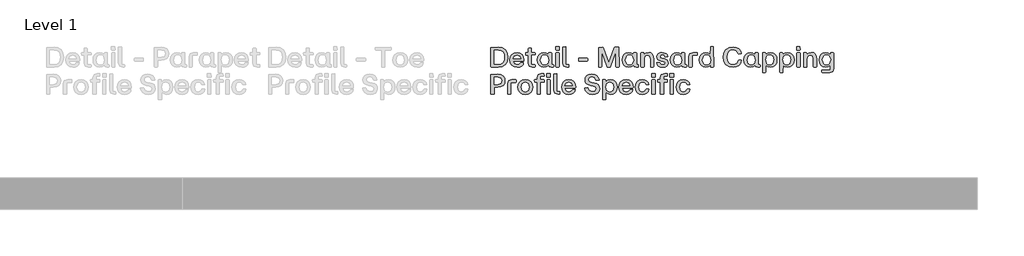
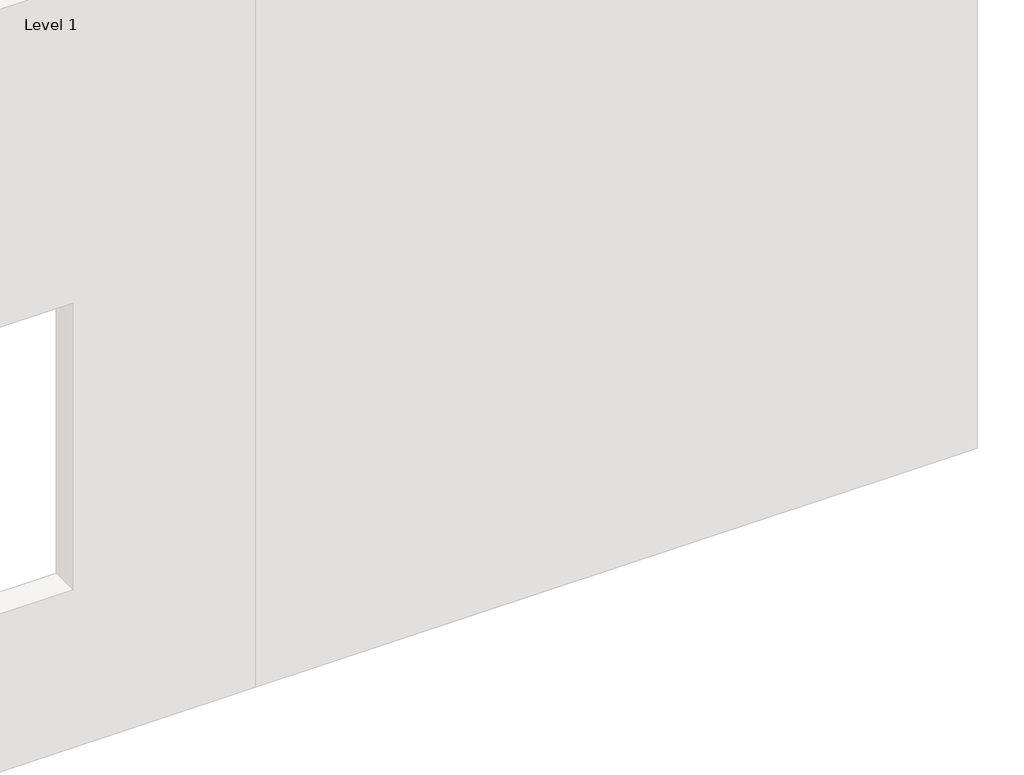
# One storey, part 50 of 64: 1 proxy.
"""IFC4 building model written with IfcOpenShell, lengths in millimetres."""

from ifc_helpers import new_model, si_unit, origin, origin_with_axes, place, context, project, spatial, polyline, outline, extrude, element, save

model = new_model("IFC4")

# Units and contexts
model_context = context("Model", 3, world=origin())
ifc_project = project(units=[si_unit("LENGTHUNIT", "METRE", prefix="MILLI")], contexts=[model_context])

# Site, building, storey
site = spatial("IfcSite", under=ifc_project)
building = spatial("IfcBuilding", under=site)
storey = spatial("IfcBuildingStorey", under=building, Name="Level 1", Elevation=0.0)

# Proxy
placement = place(None, origin())
element("IfcBuildingElementProxy", 1, Name="90mm", ObjectType="90mm", at=placement, inside=storey, context=model_context, shape_type="SweptSolid", body=[
    extrude(outline(polyline([(18110.2926176, -1500.0), (18108.9872124, -1498.7448027), (18108.9872124, -1411.3077612), (18142.5511873, -1410.002356), (18160.5475781, -1413.0054155), (18174.1193986, -1422.0145938), (18182.63905, -1436.3583606), (18185.4789338, -1455.3651852), (18182.648464, -1474.2025582), (18174.1570545, -1488.2890095), (18160.594648, -1497.0722524), (18142.5511873, -1500.0), (18110.2926176, -1500.0)]), holes=[polyline([(18123.7985402, -1487.3727155), (18141.6725492, -1487.3727155), (18153.8950326, -1485.311054), (18162.9481429, -1479.1260695), (18168.5494607, -1469.0625254), (18170.4165666, -1455.3651852), (18168.5431847, -1441.5109454), (18162.923039, -1431.1775339), (18153.8636527, -1424.7477859), (18141.6725492, -1422.6045366), (18123.7985402, -1422.6045366), (18123.7985402, -1487.3727155)])]), origin_with_axes(), (0.0, 0.0, 1.0), 20.0),
    extrude(outline(polyline([(18227.628458, -1500.7531184), (18214.0409476, -1498.4843493), (18203.5035666, -1491.6780421), (18196.7443293, -1481.0622112), (18194.4912502, -1467.3648711), (18196.7349153, -1453.5012173), (18203.4659107, -1442.7881086), (18213.9938777, -1435.9347315), (18227.628458, -1433.6502725), (18240.1584647, -1435.9033516), (18249.7324819, -1442.6625889), (18255.8044987, -1453.3129377), (18257.8285043, -1467.2393514), (18257.8285043, -1470.6785919), (18256.573307, -1472.009101), (18209.1268503, -1472.009101), (18214.6497183, -1484.6865934), (18227.628458, -1489.2053035), (18238.0465953, -1486.9082925), (18243.4439436, -1480.4691305), (18244.8246606, -1479.4147648), (18256.1967478, -1479.4147648), (18254.1633282, -1488.7314665), (18247.8120301, -1495.1925945), (18238.8248176, -1499.3629874), (18227.628458, -1500.7531184)]), holes=[polyline([(18209.2523701, -1461.5909637), (18243.8205028, -1461.5909637), (18239.0633051, -1449.6289337), (18227.628458, -1445.2733992), (18214.8631018, -1449.4155502), (18209.2523701, -1461.5909637)])]), origin_with_axes(), (0.0, 0.0, 1.0), 20.0),
    extrude(outline(polyline([(18296.6140998, -1500.0), (18282.731618, -1495.2302504), (18277.9618684, -1481.3477686), (18277.9618684, -1445.7754781), (18266.7906127, -1445.7754781), (18265.4852076, -1435.7339), (18266.7906127, -1434.4787027), (18277.9618684, -1434.4787027), (18277.9618684, -1416.45407), (18279.2170657, -1415.1486648), (18290.9657121, -1415.1486648), (18292.2209094, -1416.45407), (18292.2209094, -1434.4787027), (18308.0363949, -1434.4787027), (18309.3418001, -1435.7339), (18309.3418001, -1444.444969), (18292.2209094, -1445.7754781), (18292.2209094, -1488.7032246), (18308.0363949, -1488.7032246), (18309.3418001, -1489.9584219), (18309.3418001, -1498.7448027), (18308.0363949, -1500.0), (18296.6140998, -1500.0)])), origin_with_axes(), (0.0, 0.0, 1.0), 20.0),
    extrude(outline(polyline([(18347.2738615, -1500.7531184), (18335.3243835, -1498.4843493), (18326.0861316, -1491.6780421), (18320.1741525, -1481.0622112), (18318.2034928, -1467.3648711), (18320.1741525, -1453.5325972), (18326.0861316, -1442.8132125), (18335.3243835, -1435.9410075), (18347.2738615, -1433.6502725), (18359.1856835, -1436.5372262), (18368.160344, -1444.444969), (18368.7377347, -1435.7339), (18369.992932, -1434.4787027), (18381.6662665, -1434.4787027), (18382.9716717, -1435.7339), (18382.9716717, -1488.7032246), (18390.0760882, -1488.7032246), (18391.3312855, -1489.9584219), (18391.3312855, -1498.7448027), (18390.0760882, -1500.0), (18380.536589, -1500.0), (18372.1581473, -1497.6465051), (18369.3653333, -1490.5860205), (18359.7254183, -1497.8661646), (18347.2738615, -1500.7531184)]), holes=[polyline([(18332.7135732, -1467.3648711), (18337.6716024, -1483.3686362), (18343.5365116, -1487.7461367), (18351.2151809, -1489.2053035), (18358.7714684, -1487.7524127), (18364.470064, -1483.3937402), (18369.2398136, -1467.3648711), (18364.4324081, -1451.1728263), (18358.7243985, -1446.748256), (18351.2151809, -1445.2733992), (18343.5365116, -1446.748256), (18337.6716024, -1451.1728263), (18332.7135732, -1467.3648711)])]), origin_with_axes(), (0.0, 0.0, 1.0), 20.0),
    extrude(outline(polyline([(18403.6824266, -1500.0), (18402.3770214, -1498.7448027), (18402.3770214, -1435.7339), (18403.6824266, -1434.4787027), (18415.3557612, -1434.4787027), (18416.6109584, -1435.7339), (18416.6109584, -1498.7448027), (18415.3557612, -1500.0), (18403.6824266, -1500.0)])), origin_with_axes(), (0.0, 0.0, 1.0), 20.0),
    extrude(outline(polyline([(18401.3728636, -1421.8514182), (18401.3728636, -1407.9940404), (18402.6280609, -1406.6635313), (18416.4854387, -1406.6635313), (18417.8159478, -1421.8514182), (18416.4854387, -1423.1066155), (18402.6280609, -1423.1066155), (18401.3728636, -1421.8514182)])), origin_with_axes(), (0.0, 0.0, 1.0), 20.0),
    extrude(outline(polyline([(18451.5305464, -1500.0), (18437.6731686, -1495.2302504), (18432.903419, -1481.3477686), (18432.903419, -1408.7471587), (18445.8821587, -1407.4166496), (18447.137356, -1408.7471587), (18447.137356, -1488.7032246), (18459.1370418, -1488.7032246), (18460.3922391, -1489.9584219), (18460.3922391, -1498.7448027), (18459.1370418, -1500.0), (18451.5305464, -1500.0)])), origin_with_axes(), (0.0, 0.0, 1.0), 20.0),
    extrude(outline(polyline([(18505.1776775, -1472.887739), (18503.9224803, -1471.5572299), (18503.9224803, -1461.5909637), (18505.1776775, -1460.2604546), (18543.7875455, -1460.2604546), (18545.0427427, -1461.5909637), (18545.0427427, -1471.5572299), (18543.7875455, -1472.887739), (18505.1776775, -1472.887739)])), origin_with_axes(), (0.0, 0.0, 1.0), 20.0),
    extrude(outline(polyline([(18595.5016728, -1500.0), (18594.1962677, -1498.7448027), (18594.1962677, -1411.3077612), (18613.777345, -1410.002356), (18615.2835817, -1411.0567217), (18640.0611758, -1480.4691305), (18665.0396014, -1411.0567217), (18666.5458381, -1410.002356), (18685.0725498, -1410.002356), (18686.3779549, -1498.7448027), (18685.0725498, -1500.0), (18673.1481757, -1500.0), (18671.8176666, -1498.7448027), (18671.8176666, -1430.211032), (18647.4166318, -1498.9958422), (18645.910395, -1500.0), (18634.4127881, -1500.0), (18632.9065514, -1498.9958422), (18609.0075954, -1430.211032), (18608.5055165, -1498.7448027), (18607.1750074, -1500.0), (18595.5016728, -1500.0)])), origin_with_axes(), (0.0, 0.0, 1.0), 20.0),
    extrude(outline(polyline([(18729.6571566, -1500.7531184), (18717.7076787, -1498.4843493), (18708.4694268, -1491.6780421), (18702.5574477, -1481.0622112), (18700.586788, -1467.3648711), (18702.5574477, -1453.5325972), (18708.4694268, -1442.8132125), (18717.7076787, -1435.9410075), (18729.6571566, -1433.6502725), (18741.5689787, -1436.5372262), (18750.5436392, -1444.444969), (18751.1210299, -1435.7339), (18752.3762272, -1434.4787027), (18764.0495617, -1434.4787027), (18765.3549669, -1435.7339), (18765.3549669, -1488.7032246), (18772.4593834, -1488.7032246), (18773.7145807, -1489.9584219), (18773.7145807, -1498.7448027), (18772.4593834, -1500.0), (18762.9198842, -1500.0), (18754.5414425, -1497.6465051), (18751.7486285, -1490.5860205), (18742.1087135, -1497.8661646), (18729.6571566, -1500.7531184)]), holes=[polyline([(18715.0968684, -1467.3648711), (18720.0548976, -1483.3686362), (18725.9198068, -1487.7461367), (18733.5984761, -1489.2053035), (18741.1547636, -1487.7524127), (18746.8533592, -1483.3937402), (18751.6231088, -1467.3648711), (18746.8157033, -1451.1728263), (18741.1076937, -1446.748256), (18733.5984761, -1445.2733992), (18725.9198068, -1446.748256), (18720.0548976, -1451.1728263), (18715.0968684, -1467.3648711)])]), origin_with_axes(), (0.0, 0.0, 1.0), 20.0),
    extrude(outline(polyline([(18786.0657218, -1500.0), (18784.7603166, -1498.7448027), (18784.7603166, -1435.7339), (18786.0657218, -1434.4787027), (18797.1114577, -1434.4787027), (18798.366655, -1435.7339), (18798.366655, -1444.444969), (18807.6613908, -1436.3489466), (18819.5794888, -1433.6502725), (18829.5049612, -1435.5330684), (18836.7882433, -1441.1814561), (18841.2598836, -1450.4573639), (18842.7504303, -1463.2227201), (18842.7504303, -1498.7448027), (18841.4199212, -1500.0), (18829.7465867, -1500.0), (18828.4411815, -1498.7448027), (18828.4411815, -1463.2227201), (18824.9266292, -1449.942733), (18813.8181334, -1445.7754781), (18802.6092218, -1450.0054929), (18798.9942536, -1463.2227201), (18798.9942536, -1498.7448027), (18797.7390564, -1500.0), (18786.0657218, -1500.0)])), origin_with_axes(), (0.0, 0.0, 1.0), 20.0),
    extrude(outline(polyline([(18882.9418468, -1500.7531184), (18871.9996646, -1499.4257473), (18863.6243609, -1495.4436339), (18858.066975, -1488.982506), (18855.5785464, -1480.2180911), (18856.7082239, -1478.7871662), (18868.0803112, -1478.7871662), (18869.3355084, -1479.9670516), (18873.6282831, -1487.4480273), (18882.9418468, -1489.7073824), (18890.9751093, -1487.5735471), (18893.9875827, -1481.8498475), (18891.8286434, -1476.7035387), (18884.5233954, -1474.0174166), (18875.3604553, -1472.3856601), (18861.4528696, -1466.009258), (18856.9592634, -1453.2313499), (18858.6067098, -1445.2137773), (18863.549049, -1438.9848609), (18871.2842022, -1434.9839196), (18881.3100904, -1433.6502725), (18898.7573324, -1438.6083017), (18903.9224691, -1444.6050066), (18906.3638278, -1452.6790631), (18893.862063, -1454.1099879), (18892.481346, -1452.9301025), (18888.9165858, -1446.6164603), (18881.3100904, -1444.6960084), (18873.653387, -1446.6792201), (18871.0174728, -1452.4280236), (18872.9002687, -1457.4111568), (18879.7536457, -1460.1349348), (18889.5441844, -1461.9675228), (18903.966401, -1468.2435092), (18908.0457921, -1481.0967292), (18906.4140357, -1489.4845849), (18901.5187663, -1495.6695694), (18893.6110236, -1499.4822311), (18882.9418468, -1500.7531184)])), origin_with_axes(), (0.0, 0.0, 1.0), 20.0),
    extrude(outline(polyline([(18946.5552443, -1500.7531184), (18934.6057663, -1498.4843493), (18925.3675144, -1491.6780421), (18919.4555353, -1481.0622112), (18917.4848756, -1467.3648711), (18919.4555353, -1453.5325972), (18925.3675144, -1442.8132125), (18934.6057663, -1435.9410075), (18946.5552443, -1433.6502725), (18958.4670663, -1436.5372262), (18967.4417268, -1444.444969), (18968.0191175, -1435.7339), (18969.2743148, -1434.4787027), (18980.9476494, -1434.4787027), (18982.2530545, -1435.7339), (18982.2530545, -1488.7032246), (18989.357471, -1488.7032246), (18990.6126683, -1489.9584219), (18990.6126683, -1498.7448027), (18989.357471, -1500.0), (18979.8179718, -1500.0), (18971.4395301, -1497.6465051), (18968.6467161, -1490.5860205), (18959.0068011, -1497.8661646), (18946.5552443, -1500.7531184)]), holes=[polyline([(18931.994956, -1467.3648711), (18936.9529852, -1483.3686362), (18942.8178944, -1487.7461367), (18950.4965637, -1489.2053035), (18958.0528512, -1487.7524127), (18963.7514468, -1483.3937402), (18968.5211964, -1467.3648711), (18963.7137909, -1451.1728263), (18958.0057813, -1446.748256), (18950.4965637, -1445.2733992), (18942.8178944, -1446.748256), (18936.9529852, -1451.1728263), (18931.994956, -1467.3648711)])]), origin_with_axes(), (0.0, 0.0, 1.0), 20.0),
    extrude(outline(polyline([(19002.2860029, -1500.0), (19001.0308056, -1498.7448027), (19001.0308056, -1453.0556222), (19005.8005552, -1439.2107964), (19019.657933, -1434.4787027), (19037.9336052, -1434.4787027), (19039.1888025, -1435.7339), (19039.1888025, -1445.2733992), (19037.9336052, -1446.5285965), (19015.2647426, -1446.5285965), (19015.2647426, -1498.7448027), (19014.0095453, -1500.0), (19002.2860029, -1500.0)])), origin_with_axes(), (0.0, 0.0, 1.0), 20.0),
    extrude(outline(polyline([(19076.6940968, -1500.7531184), (19064.7446189, -1498.4843493), (19055.506367, -1491.6780421), (19049.5943878, -1481.0622112), (19047.6237281, -1467.3648711), (19049.5943878, -1453.5325972), (19055.506367, -1442.8132125), (19064.7446189, -1435.9410075), (19076.6940968, -1433.6502725), (19088.6059189, -1436.5372262), (19097.5805793, -1444.444969), (19098.1579701, -1408.7471587), (19099.4131673, -1407.4166496), (19111.0865019, -1407.4166496), (19112.3919071, -1498.7448027), (19111.0865019, -1500.0), (19100.040766, -1500.0), (19098.7855687, -1498.7448027), (19098.7855687, -1490.0839416), (19089.1456537, -1497.8661646), (19076.6940968, -1500.7531184)]), holes=[polyline([(19062.1338085, -1467.3648711), (19067.0918377, -1483.3686362), (19072.956747, -1487.7461367), (19080.6354162, -1489.2053035), (19088.1917038, -1487.7524127), (19093.8902994, -1483.3937402), (19098.660049, -1467.3648711), (19093.8526435, -1451.1728263), (19088.1446339, -1446.748256), (19080.6354162, -1445.2733992), (19072.956747, -1446.748256), (19067.0918377, -1451.1728263), (19062.1338085, -1467.3648711)])]), origin_with_axes(), (0.0, 0.0, 1.0), 20.0),
    extrude(outline(polyline([(19199.5779092, -1500.7531184), (19181.5658284, -1497.6684711), (19167.6958986, -1488.4145292), (19158.8467579, -1473.8887589), (19155.8970443, -1454.988626), (19158.8718618, -1436.4054305), (19167.7963144, -1421.8263143), (19181.6913481, -1412.3935068), (19199.5779092, -1409.2492376), (19213.5262888, -1411.3265891), (19225.0960696, -1417.5586436), (19233.4148895, -1427.2424905), (19237.6103864, -1439.6752194), (19224.4308151, -1441.1312482), (19222.9998902, -1440.0015707), (19215.1360793, -1426.3889563), (19199.5779092, -1421.8514182), (19187.6535352, -1424.0731174), (19178.5910109, -1430.7382148), (19172.8673114, -1441.244216), (19170.9594115, -1454.988626), (19172.8578974, -1468.9464196), (19178.553355, -1479.4398688), (19187.6064653, -1486.0108265), (19199.5779092, -1488.2011457), (19215.4436026, -1483.7263674), (19223.8785283, -1470.3020327), (19225.3094532, -1469.1221472), (19237.2338272, -1469.1221472), (19234.0613161, -1482.8791093), (19225.5981485, -1492.4688164), (19213.8400881, -1498.6820429), (19199.5779092, -1500.7531184)])), origin_with_axes(), (0.0, 0.0, 1.0), 20.0),
    extrude(outline(polyline([(19277.5256594, -1500.7531184), (19265.5761815, -1498.4843493), (19256.3379296, -1491.6780421), (19250.4259504, -1481.0622112), (19248.4552907, -1467.3648711), (19250.4259504, -1453.5325972), (19256.3379296, -1442.8132125), (19265.5761815, -1435.9410075), (19277.5256594, -1433.6502725), (19289.4374815, -1436.5372262), (19298.4121419, -1444.444969), (19298.9895327, -1435.7339), (19300.2447299, -1434.4787027), (19311.9180645, -1434.4787027), (19313.2234697, -1435.7339), (19313.2234697, -1488.7032246), (19320.3278862, -1488.7032246), (19321.5830835, -1489.9584219), (19321.5830835, -1498.7448027), (19320.3278862, -1500.0), (19310.788387, -1500.0), (19302.4099452, -1497.6465051), (19299.6171313, -1490.5860205), (19289.9772163, -1497.8661646), (19277.5256594, -1500.7531184)]), holes=[polyline([(19262.9653711, -1467.3648711), (19267.9234003, -1483.3686362), (19273.7883096, -1487.7461367), (19281.4669788, -1489.2053035), (19289.0232664, -1487.7524127), (19294.721862, -1483.3937402), (19299.4916116, -1467.3648711), (19294.6842061, -1451.1728263), (19288.9761965, -1446.748256), (19281.4669788, -1445.2733992), (19273.7883096, -1446.748256), (19267.9234003, -1451.1728263), (19262.9653711, -1467.3648711)])]), origin_with_axes(), (0.0, 0.0, 1.0), 20.0),
    extrude(outline(polyline([(19333.9342246, -1524.4010349), (19332.6288194, -1523.1458376), (19332.6288194, -1435.7339), (19333.9342246, -1434.4787027), (19344.9799605, -1434.4787027), (19346.2351578, -1435.7339), (19346.2351578, -1444.3194493), (19355.8750728, -1436.5372262), (19368.3266297, -1433.6502725), (19380.2761076, -1435.9253176), (19389.5143595, -1442.7504527), (19395.4263386, -1453.3913875), (19397.3969984, -1467.1138316), (19395.4263386, -1480.9210016), (19389.5143595, -1491.6152823), (19380.2761076, -1498.4686593), (19368.3266297, -1500.7531184), (19356.4148076, -1497.8661646), (19347.4401472, -1489.9584219), (19346.8627564, -1523.1458376), (19345.6075591, -1524.4010349), (19333.9342246, -1524.4010349)]), holes=[polyline([(19346.3606775, -1467.1138316), (19351.168083, -1483.3058764), (19356.8760926, -1487.7304467), (19364.3853103, -1489.2053035), (19372.0639795, -1487.7304467), (19377.9288888, -1483.3058764), (19382.886918, -1467.1138316), (19377.9288888, -1451.1100665), (19372.0639795, -1446.732566), (19364.3853103, -1445.2733992), (19356.8290227, -1446.723152), (19351.1304271, -1451.0724106), (19346.3606775, -1467.1138316)])]), origin_with_axes(), (0.0, 0.0, 1.0), 20.0),
    extrude(outline(polyline([(19411.0535446, -1524.4010349), (19409.7481395, -1523.1458376), (19409.7481395, -1435.7339), (19411.0535446, -1434.4787027), (19422.0992806, -1434.4787027), (19423.3544778, -1435.7339), (19423.3544778, -1444.3194493), (19432.9943928, -1436.5372262), (19445.4459497, -1433.6502725), (19457.3954277, -1435.9253176), (19466.6336796, -1442.7504527), (19472.5456587, -1453.3913875), (19474.5163184, -1467.1138316), (19472.5456587, -1480.9210016), (19466.6336796, -1491.6152823), (19457.3954277, -1498.4686593), (19445.4459497, -1500.7531184), (19433.5341277, -1497.8661646), (19424.5594672, -1489.9584219), (19423.9820765, -1523.1458376), (19422.7268792, -1524.4010349), (19411.0535446, -1524.4010349)]), holes=[polyline([(19423.4799975, -1467.1138316), (19428.2874031, -1483.3058764), (19433.9954126, -1487.7304467), (19441.5046303, -1489.2053035), (19449.1832996, -1487.7304467), (19455.0482088, -1483.3058764), (19460.006238, -1467.1138316), (19455.0482088, -1451.1100665), (19449.1832996, -1446.732566), (19441.5046303, -1445.2733992), (19433.9483427, -1446.723152), (19428.2497472, -1451.0724106), (19423.4799975, -1467.1138316)])]), origin_with_axes(), (0.0, 0.0, 1.0), 20.0),
    extrude(outline(polyline([(19488.1728647, -1500.0), (19486.8674595, -1498.7448027), (19486.8674595, -1435.7339), (19488.1728647, -1434.4787027), (19499.8461992, -1434.4787027), (19501.1013965, -1435.7339), (19501.1013965, -1498.7448027), (19499.8461992, -1500.0), (19488.1728647, -1500.0)])), origin_with_axes(), (0.0, 0.0, 1.0), 20.0),
    extrude(outline(polyline([(19485.8633017, -1421.8514182), (19485.8633017, -1407.9940404), (19487.1184989, -1406.6635313), (19500.9758768, -1406.6635313), (19502.3063859, -1421.8514182), (19500.9758768, -1423.1066155), (19487.1184989, -1423.1066155), (19485.8633017, -1421.8514182)])), origin_with_axes(), (0.0, 0.0, 1.0), 20.0),
    extrude(outline(polyline([(19518.6992622, -1500.0), (19517.393857, -1498.7448027), (19517.393857, -1435.7339), (19518.6992622, -1434.4787027), (19529.7449981, -1434.4787027), (19531.0001954, -1435.7339), (19531.0001954, -1444.444969), (19540.2949311, -1436.3489466), (19552.2130292, -1433.6502725), (19562.1385016, -1435.5330684), (19569.4217837, -1441.1814561), (19573.893424, -1450.4573639), (19575.3839707, -1463.2227201), (19575.3839707, -1498.7448027), (19574.0534616, -1500.0), (19562.380127, -1500.0), (19561.0747219, -1498.7448027), (19561.0747219, -1463.2227201), (19557.5601695, -1449.942733), (19546.4516737, -1445.7754781), (19535.2427621, -1450.0054929), (19531.627794, -1463.2227201), (19531.627794, -1498.7448027), (19530.3725967, -1500.0), (19518.6992622, -1500.0)])), origin_with_axes(), (0.0, 0.0, 1.0), 20.0),
    extrude(outline(polyline([(19601.0904107, -1524.4010349), (19599.7599016, -1523.1458376), (19599.7599016, -1514.3594567), (19601.0904107, -1513.1042595), (19637.9932104, -1513.1042595), (19637.9932104, -1489.9584219), (19628.4411592, -1497.8661646), (19616.5293371, -1500.7531184), (19604.5798591, -1498.4686593), (19595.3416072, -1491.6152823), (19589.4296281, -1480.9210016), (19587.4589684, -1467.1138316), (19589.4296281, -1453.3913875), (19595.3416072, -1442.7504527), (19604.5798591, -1435.9253176), (19616.5293371, -1433.6502725), (19628.980894, -1436.5372262), (19638.1187301, -1444.3194493), (19638.620809, -1435.7339), (19639.8760063, -1434.4787027), (19650.9217422, -1434.4787027), (19652.2271474, -1435.7339), (19652.2271474, -1506.4015061), (19647.5829175, -1519.7944609), (19634.2276186, -1524.4010349), (19601.0904107, -1524.4010349)]), holes=[polyline([(19601.9690488, -1467.1138316), (19606.927078, -1483.3058764), (19612.7919872, -1487.7304467), (19620.4706565, -1489.2053035), (19627.9798742, -1487.7304467), (19633.6878837, -1483.3058764), (19638.4952893, -1467.1138316), (19633.7255396, -1451.0724106), (19628.0269441, -1446.723152), (19620.4706565, -1445.2733992), (19612.7919872, -1446.732566), (19606.927078, -1451.1100665), (19601.9690488, -1467.1138316)])]), origin_with_axes(), (0.0, 0.0, 1.0), 20.0),
    extrude(outline(polyline([(18110.2926176, -1622.13305), (18108.9872124, -1620.8778528), (18108.9872124, -1533.4408112), (18140.1161046, -1532.135406), (18154.0174144, -1534.0338919), (18164.3414119, -1539.7293495), (18170.7429179, -1548.9236695), (18172.8767533, -1561.3187425), (18170.7429179, -1573.7138155), (18164.3414119, -1582.9081354), (18154.0174144, -1588.603593), (18140.1161046, -1590.5020789), (18123.7985402, -1590.5020789), (18123.7985402, -1620.8778528), (18122.4680311, -1622.13305), (18110.2926176, -1622.13305)]), holes=[polyline([(18123.7985402, -1577.8747944), (18140.1161046, -1577.8747944), (18153.5969233, -1573.7954033), (18157.9901137, -1561.3061905), (18153.5969233, -1548.8169777), (18140.1161046, -1544.7375866), (18123.7985402, -1544.7375866), (18123.7985402, -1577.8747944)])]), origin_with_axes(), (0.0, 0.0, 1.0), 20.0),
    extrude(outline(polyline([(18186.1065325, -1622.13305), (18184.8513352, -1620.8778528), (18184.8513352, -1575.1886723), (18189.6210848, -1561.3438464), (18203.4784626, -1556.6117527), (18221.7541348, -1556.6117527), (18223.0093321, -1557.86695), (18223.0093321, -1567.4064492), (18221.7541348, -1568.6616465), (18199.0852722, -1568.6616465), (18199.0852722, -1620.8778528), (18197.8300749, -1622.13305), (18186.1065325, -1622.13305)])), origin_with_axes(), (0.0, 0.0, 1.0), 20.0),
    extrude(outline(polyline([(18264.2049064, -1622.8861684), (18250.9782652, -1620.5797434), (18240.519334, -1613.6604685), (18233.7130268, -1603.0069817), (18231.4442577, -1589.4979211), (18233.7193028, -1575.9009967), (18240.5444379, -1565.1345422), (18251.0096451, -1558.1211274), (18264.2049064, -1555.7833225), (18277.5570673, -1558.1211274), (18288.0913103, -1565.1345422), (18294.9352734, -1575.9009967), (18297.2165945, -1589.4979211), (18294.9352734, -1603.0069817), (18288.0913103, -1613.6604685), (18277.5570673, -1620.5797434), (18264.2049064, -1622.8861684)]), holes=[polyline([(18245.9543381, -1589.4979211), (18250.8119515, -1605.5267902), (18256.588997, -1609.8854627), (18264.2049064, -1611.3383535), (18271.9024036, -1609.8791867), (18277.7735888, -1605.5016862), (18282.731618, -1589.4979211), (18277.7986928, -1573.3058764), (18271.9337835, -1568.881306), (18264.2049064, -1567.4064492), (18256.588997, -1568.881306), (18250.8119515, -1573.3058764), (18245.9543381, -1589.4979211)])]), origin_with_axes(), (0.0, 0.0, 1.0), 20.0),
    extrude(outline(polyline([(18319.3833782, -1622.13305), (18318.1281809, -1620.8778528), (18318.1281809, -1567.9085281), (18306.9569253, -1567.9085281), (18305.6515201, -1557.86695), (18306.9569253, -1556.6117527), (18318.1281809, -1556.6117527), (18318.1281809, -1548.201931), (18322.8979305, -1534.3194493), (18336.7804123, -1529.5496997), (18348.2027074, -1529.5496997), (18349.5081126, -1539.5912778), (18332.3872219, -1540.9217869), (18332.3872219, -1556.6117527), (18348.2027074, -1556.6117527), (18349.5081126, -1557.86695), (18349.5081126, -1566.578019), (18332.3872219, -1567.9085281), (18332.3872219, -1620.8778528), (18331.1320246, -1622.13305), (18319.3833782, -1622.13305)])), origin_with_axes(), (0.0, 0.0, 1.0), 20.0),
    extrude(outline(polyline([(18361.3069669, -1543.9844682), (18361.3069669, -1530.1270904), (18362.5621642, -1528.7965813), (18376.4948538, -1528.7965813), (18377.7500511, -1530.1270904), (18377.7500511, -1543.9844682), (18376.4948538, -1545.2396655), (18362.5621642, -1545.2396655), (18361.3069669, -1543.9844682)])), origin_with_axes(), (0.0, 0.0, 1.0), 20.0),
    extrude(outline(polyline([(18362.3111247, -1620.8778528), (18362.3111247, -1557.86695), (18363.6416338, -1556.6117527), (18375.3149684, -1556.6117527), (18376.6203735, -1557.86695), (18376.6203735, -1620.8778528), (18375.3149684, -1622.13305), (18363.6416338, -1622.13305), (18362.3111247, -1620.8778528)])), origin_with_axes(), (0.0, 0.0, 1.0), 20.0),
    extrude(outline(polyline([(18411.3642339, -1622.13305), (18397.506856, -1617.3633004), (18392.7371064, -1603.4808186), (18392.7371064, -1530.8802088), (18405.7158462, -1529.5496997), (18406.9710434, -1530.8802088), (18406.9710434, -1610.8362746), (18418.9707293, -1610.8362746), (18420.2259266, -1612.0914719), (18420.2259266, -1620.8778528), (18418.9707293, -1622.13305), (18411.3642339, -1622.13305)])), origin_with_axes(), (0.0, 0.0, 1.0), 20.0),
    extrude(outline(polyline([(18460.5930707, -1622.8861684), (18447.0055602, -1620.6173993), (18436.4681792, -1613.8110921), (18429.7089419, -1603.1952613), (18427.4558628, -1589.4979211), (18429.6995279, -1575.6342673), (18436.4305233, -1564.9211586), (18446.9584903, -1558.0677815), (18460.5930707, -1555.7833225), (18473.1230774, -1558.0364016), (18482.6970945, -1564.7956389), (18488.7691113, -1575.4459877), (18490.7931169, -1589.3724014), (18490.7931169, -1592.8116419), (18489.5379196, -1594.142151), (18442.0914629, -1594.142151), (18447.6143309, -1606.8196434), (18460.5930707, -1611.3383535), (18471.011208, -1609.0413425), (18476.4085562, -1602.6021806), (18477.7892732, -1601.5478148), (18489.1613604, -1601.5478148), (18487.1279409, -1610.8645166), (18480.7766427, -1617.3256445), (18471.7894303, -1621.4960374), (18460.5930707, -1622.8861684)]), holes=[polyline([(18442.2169827, -1583.7240137), (18476.7851154, -1583.7240137), (18472.0279177, -1571.7619837), (18460.5930707, -1567.4064492), (18447.8277145, -1571.5486002), (18442.2169827, -1583.7240137)])]), origin_with_axes(), (0.0, 0.0, 1.0), 20.0),
    extrude(outline(polyline([(18566.8831752, -1622.8861684), (18553.1136611, -1621.0347524), (18542.4319324, -1615.4805045), (18535.1706162, -1606.5058441), (18531.6623399, -1594.3931904), (18544.917223, -1592.9371616), (18546.2226282, -1594.142151), (18552.4107507, -1606.6941236), (18566.8831752, -1610.5852352), (18579.3974919, -1607.007923), (18583.8785461, -1597.0793126), (18580.7782089, -1588.8326665), (18570.3977275, -1584.7281715), (18558.5235614, -1582.644544), (18547.5186193, -1579.3904451), (18539.6579465, -1574.0715467), (18534.9415427, -1566.6878488), (18533.3694082, -1557.2393514), (18535.3839998, -1546.397585), (18541.4277746, -1538.2231128), (18551.0802416, -1533.0924939), (18563.9209096, -1531.3822877), (18576.6548859, -1533.1144599), (18586.5897722, -1538.3109766), (18593.3803895, -1546.6643144), (18596.6815583, -1557.86695), (18583.501987, -1559.2978749), (18582.0710621, -1557.86695), (18576.2594987, -1547.1601173), (18563.9209096, -1543.7334288), (18552.1597112, -1546.8714219), (18548.1054241, -1556.034362), (18551.7203922, -1564.732879), (18563.0422715, -1569.2892451), (18574.8411258, -1571.3477686), (18585.6609263, -1574.5171417), (18593.0163822, -1579.6069666), (18597.2338451, -1586.9373187), (18598.639666, -1596.8282731), (18596.5277966, -1607.7422134), (18590.1921884, -1615.9825834), (18580.1411963, -1621.1602721), (18566.8831752, -1622.8861684)])), origin_with_axes(), (0.0, 0.0, 1.0), 20.0),
    extrude(outline(polyline([(18614.1539042, -1646.5340849), (18612.848499, -1645.2788876), (18612.848499, -1557.86695), (18614.1539042, -1556.6117527), (18625.1996401, -1556.6117527), (18626.4548374, -1557.86695), (18626.4548374, -1566.4524993), (18636.0947524, -1558.6702762), (18648.5463093, -1555.7833225), (18660.4957873, -1558.0583676), (18669.7340392, -1564.8835027), (18675.6460183, -1575.5244375), (18677.616678, -1589.2468816), (18675.6460183, -1603.0540516), (18669.7340392, -1613.7483323), (18660.4957873, -1620.6017094), (18648.5463093, -1622.8861684), (18636.6344872, -1619.9992147), (18627.6598268, -1612.0914719), (18627.082436, -1645.2788876), (18625.8272388, -1646.5340849), (18614.1539042, -1646.5340849)]), holes=[polyline([(18626.5803571, -1589.2468816), (18631.3877627, -1605.4389264), (18637.0957722, -1609.8634967), (18644.6049899, -1611.3383535), (18652.2836592, -1609.8634967), (18658.1485684, -1605.4389264), (18663.1065976, -1589.2468816), (18658.1485684, -1573.2431165), (18652.2836592, -1568.865616), (18644.6049899, -1567.4064492), (18637.0487023, -1568.856202), (18631.3501068, -1573.2054606), (18626.5803571, -1589.2468816)])]), origin_with_axes(), (0.0, 0.0, 1.0), 20.0),
    extrude(outline(polyline([(18719.2641233, -1622.8861684), (18705.6766129, -1620.6173993), (18695.1392318, -1613.8110921), (18688.3799945, -1603.1952613), (18686.1269155, -1589.4979211), (18688.3705806, -1575.6342673), (18695.1015759, -1564.9211586), (18705.629543, -1558.0677815), (18719.2641233, -1555.7833225), (18731.79413, -1558.0364016), (18741.3681471, -1564.7956389), (18747.4401639, -1575.4459877), (18749.4641695, -1589.3724014), (18749.4641695, -1592.8116419), (18748.2089722, -1594.142151), (18700.7625156, -1594.142151), (18706.2853836, -1606.8196434), (18719.2641233, -1611.3383535), (18729.6822606, -1609.0413425), (18735.0796088, -1602.6021806), (18736.4603258, -1601.5478148), (18747.8324131, -1601.5478148), (18745.7989935, -1610.8645166), (18739.4476953, -1617.3256445), (18730.4604829, -1621.4960374), (18719.2641233, -1622.8861684)]), holes=[polyline([(18700.8880353, -1583.7240137), (18735.456168, -1583.7240137), (18730.6989704, -1571.7619837), (18719.2641233, -1567.4064492), (18706.4987671, -1571.5486002), (18700.8880353, -1583.7240137)])]), origin_with_axes(), (0.0, 0.0, 1.0), 20.0),
    extrude(outline(polyline([(18791.4379661, -1622.8861684), (18777.9445955, -1620.6173993), (18767.4385944, -1613.8110921), (18760.6793571, -1603.1952613), (18758.426278, -1589.4979211), (18760.710737, -1575.9009967), (18767.5641141, -1565.1345422), (18778.1014951, -1558.1211274), (18791.4379661, -1555.7833225), (18802.4209422, -1557.3303532), (18811.3704987, -1561.971445), (18817.6841409, -1569.1543114), (18820.7593742, -1578.3266654), (18808.1320897, -1579.7073824), (18801.7054797, -1570.1678832), (18791.4379661, -1567.4064492), (18783.680847, -1568.881306), (18777.8316277, -1573.3058764), (18772.9363584, -1589.4979211), (18777.8567317, -1605.5644461), (18783.7122269, -1609.8948767), (18791.4379661, -1611.3383535), (18802.019279, -1608.7024393), (18807.3789714, -1600.1670979), (18808.7596884, -1598.9621085), (18820.1317756, -1598.9621085), (18818.12346, -1609.4712476), (18811.7470579, -1616.6980459), (18802.7033616, -1621.3391377), (18791.4379661, -1622.8861684)])), origin_with_axes(), (0.0, 0.0, 1.0), 20.0),
    extrude(outline(polyline([(18835.8719493, -1622.13305), (18834.5665442, -1620.8778528), (18834.5665442, -1557.86695), (18835.8719493, -1556.6117527), (18847.5452839, -1556.6117527), (18848.8004812, -1557.86695), (18848.8004812, -1620.8778528), (18847.5452839, -1622.13305), (18835.8719493, -1622.13305)])), origin_with_axes(), (0.0, 0.0, 1.0), 20.0),
    extrude(outline(polyline([(18833.5623863, -1543.9844682), (18833.5623863, -1530.1270904), (18834.8175836, -1528.7965813), (18848.6749614, -1528.7965813), (18850.0054705, -1543.9844682), (18848.6749614, -1545.2396655), (18834.8175836, -1545.2396655), (18833.5623863, -1543.9844682)])), origin_with_axes(), (0.0, 0.0, 1.0), 20.0),
    extrude(outline(polyline([(18873.678491, -1622.13305), (18872.4232937, -1620.8778528), (18872.4232937, -1567.9085281), (18861.252038, -1567.9085281), (18859.9466329, -1557.86695), (18861.252038, -1556.6117527), (18872.4232937, -1556.6117527), (18872.4232937, -1548.201931), (18877.1930433, -1534.3194493), (18891.0755251, -1529.5496997), (18902.4978202, -1529.5496997), (18903.8032254, -1539.5912778), (18886.6823347, -1540.9217869), (18886.6823347, -1556.6117527), (18902.4978202, -1556.6117527), (18903.8032254, -1557.86695), (18903.8032254, -1566.578019), (18886.6823347, -1567.9085281), (18886.6823347, -1620.8778528), (18885.4271374, -1622.13305), (18873.678491, -1622.13305)])), origin_with_axes(), (0.0, 0.0, 1.0), 20.0),
    extrude(outline(polyline([(18915.6020797, -1543.9844682), (18915.6020797, -1530.1270904), (18916.8572769, -1528.7965813), (18930.7899666, -1528.7965813), (18932.0451639, -1530.1270904), (18932.0451639, -1543.9844682), (18930.7899666, -1545.2396655), (18916.8572769, -1545.2396655), (18915.6020797, -1543.9844682)])), origin_with_axes(), (0.0, 0.0, 1.0), 20.0),
    extrude(outline(polyline([(18916.6062375, -1620.8778528), (18916.6062375, -1557.86695), (18917.9367466, -1556.6117527), (18929.6100812, -1556.6117527), (18930.9154863, -1557.86695), (18930.9154863, -1620.8778528), (18929.6100812, -1622.13305), (18917.9367466, -1622.13305), (18916.6062375, -1620.8778528)])), origin_with_axes(), (0.0, 0.0, 1.0), 20.0),
    extrude(outline(polyline([(18976.2030037, -1622.8861684), (18962.7096331, -1620.6173993), (18952.203632, -1613.8110921), (18945.4443947, -1603.1952613), (18943.1913156, -1589.4979211), (18945.4757746, -1575.9009967), (18952.3291517, -1565.1345422), (18962.8665327, -1558.1211274), (18976.2030037, -1555.7833225), (18987.1859798, -1557.3303532), (18996.1355363, -1561.971445), (19002.4491785, -1569.1543114), (19005.5244118, -1578.3266654), (18992.8971273, -1579.7073824), (18986.4705173, -1570.1678832), (18976.2030037, -1567.4064492), (18968.4458846, -1568.881306), (18962.5966653, -1573.3058764), (18957.701396, -1589.4979211), (18962.6217693, -1605.5644461), (18968.4772645, -1609.8948767), (18976.2030037, -1611.3383535), (18986.7843166, -1608.7024393), (18992.144009, -1600.1670979), (18993.524726, -1598.9621085), (19004.8968132, -1598.9621085), (19002.8884976, -1609.4712476), (18996.5120955, -1616.6980459), (18987.4683992, -1621.3391377), (18976.2030037, -1622.8861684)])), origin_with_axes(), (0.0, 0.0, 1.0), 20.0),
])

save(model, "model.ifc")
